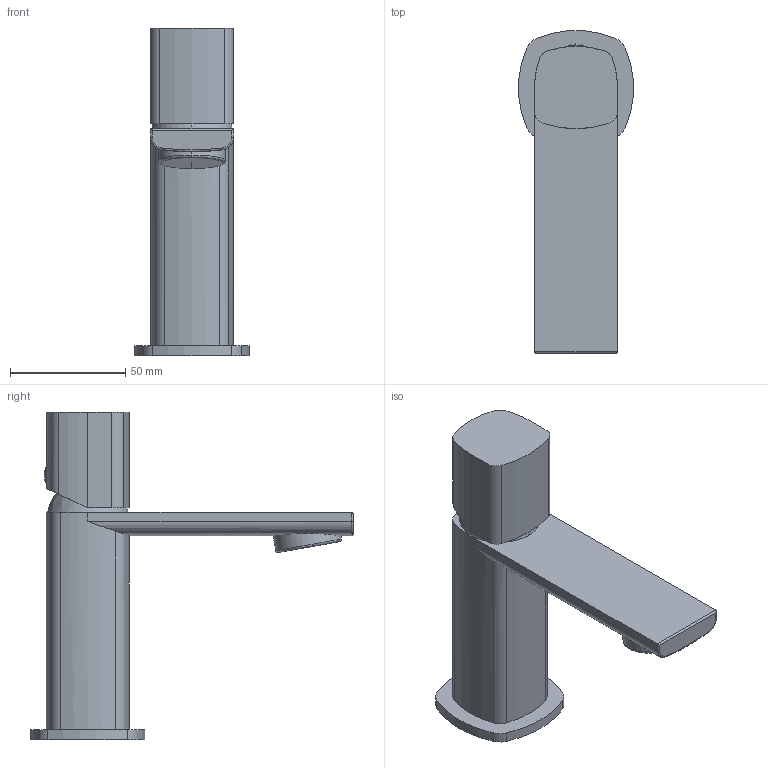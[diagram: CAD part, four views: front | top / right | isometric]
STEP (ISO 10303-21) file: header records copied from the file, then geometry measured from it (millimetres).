
FILE_DESCRIPTION(('FreeCAD Model'),'2;1');
FILE_NAME('Open CASCADE Shape Model','2024-11-19T13:46:40',('Author'),( ''),'Open CASCADE STEP processor 7.6','FreeCAD','Unknown');
FILE_SCHEMA(('AUTOMOTIVE_DESIGN { 1 0 10303 214 1 1 1 1 }'));
Length unit declared in the file: millimetre
Products named in the file (3): TopLevelAssembly; Obrót profilu; Połączona geometria bryłowa
Assembly tree (2 placements, depth 2):
  TopLevelAssembly
    Obrót profilu
    Połączona geometria bryłowa
Bounding box: 49.71 x 140.24 x 142.41 mm (x, y, z)
Volume: 202382.2 mm3; surface area: 31591.3 mm2
Topology: 2 solids, 2 shells, 63 faces, 153 edges, 95 vertices
Faces by surface type: cylinder 37, plane 17, bspline 9
Entity records: 2101 total; most frequent: CARTESIAN_POINT 571, DIRECTION 325, ORIENTED_EDGE 302, EDGE_CURVE 151, AXIS2_PLACEMENT_3D 134, VERTEX_POINT 95, CIRCLE 70, FACE_BOUND 66
